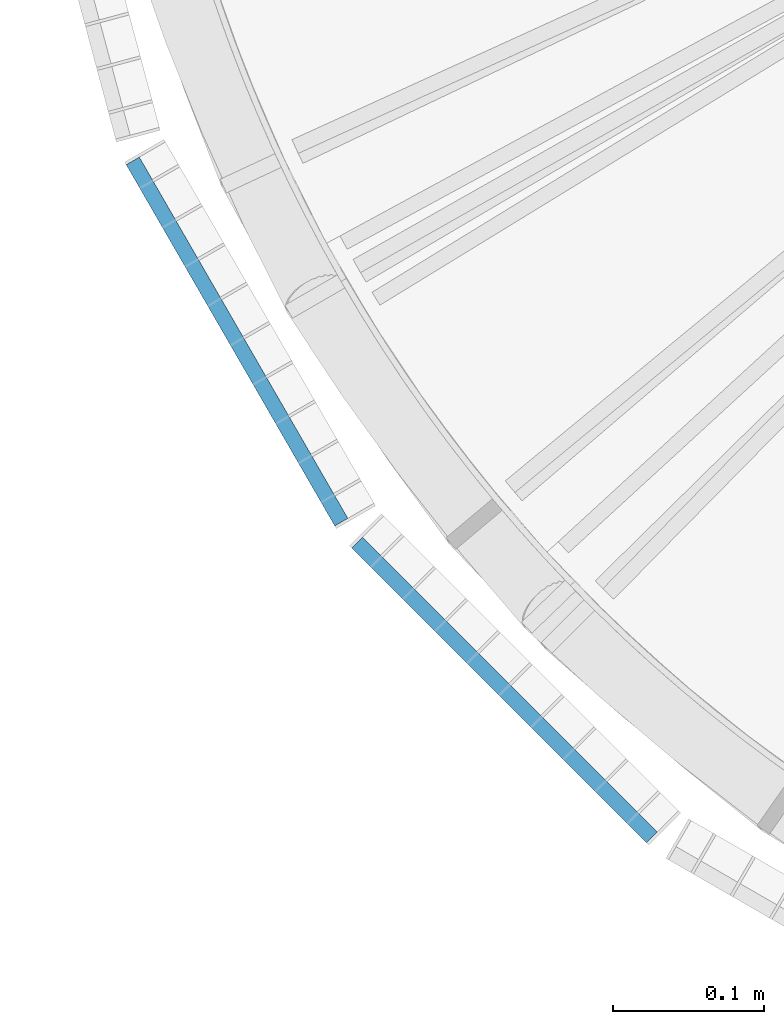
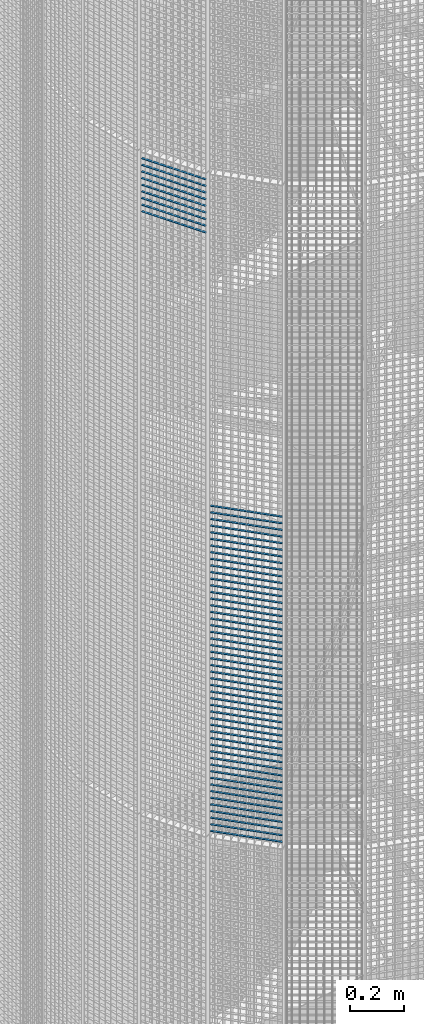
# One storey, part 115 of 1183: 59 beams, 2 elements without a shape of their own.
"""IFC2X3 building model written with IfcOpenShell, lengths in millimetres."""

from ifc_helpers import new_model, si_unit, frame, origin_with_axes, origin_2d_with_axis, place, context, subcontext, project, spatial, rectangle, extrude, material, type_object, element, aggregate, save


model = new_model("IFC2X3")

# Units and contexts
model_context = context("Model", 3, precision=1e-05, world=origin_with_axes())
body_context = subcontext(model_context, "Body", "Model", "MODEL_VIEW")
ifc_project = project(units=[si_unit("LENGTHUNIT", "METRE", prefix="MILLI"), si_unit("AREAUNIT", "SQUARE_METRE"), si_unit("VOLUMEUNIT", "CUBIC_METRE"), si_unit("MASSUNIT", "GRAM", prefix="KILO"), si_unit("TIMEUNIT", "SECOND"), si_unit("PLANEANGLEUNIT", "RADIAN"), si_unit("SOLIDANGLEUNIT", "STERADIAN"), si_unit("THERMODYNAMICTEMPERATUREUNIT", "DEGREE_CELSIUS"), si_unit("LUMINOUSINTENSITYUNIT", "LUMEN")], contexts=[model_context])

# Site, building, storey
site_placement = place(None, origin_with_axes())
site = spatial("IfcSite", under=ifc_project, at=site_placement, Name="Undefined", CompositionType="ELEMENT")
building_placement = place(site_placement, origin_with_axes())
building = spatial("IfcBuilding", under=site, at=building_placement, Name="Undefined", CompositionType="ELEMENT")
storey_placement = place(building_placement, origin_with_axes())
storey = spatial("IfcBuildingStorey", under=building, at=storey_placement, Name="Undefined", CompositionType="ELEMENT", Elevation=0.0)

# Assembly, beams
assembly_1_placement = place(storey_placement, origin_with_axes())
assembly_1 = element("IfcElementAssembly", 1, at=assembly_1_placement, inside=storey, Name="BORDURE", AssemblyPlace="NOTDEFINED", PredefinedType="NOTDEFINED")
ifc_material = material(Name="STEEL/S235JR")
beam_type = type_object("IfcBeamType", Name="PL2*10", PredefinedType="NOTDEFINED")
beam_1_placement = place(assembly_1_placement, frame((-884.927168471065, -689.771348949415, 10500.0), z_axis=(-0.70710678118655, -0.707106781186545, 0.0), x_axis=(0.707106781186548, -0.707106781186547, 0.0)))
beam_1 = element("IfcBeam", 2, at=beam_1_placement, type_object=beam_type, material=ifc_material, Name="ENTRETOISE", context=body_context, shape_type="SweptSolid", body=[
    extrude(rectangle(XDim=2.0, YDim=10.0, at=origin_2d_with_axis()), frame((275.999999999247, 9.09494701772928e-13, 1.53210777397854e-14), z_axis=(-1.0, 0.0, 0.0), x_axis=(0.0, -1.0, 0.0)), (0.0, 0.0, 1.0), 276.0),
])
beam_2_placement = place(assembly_1_placement, frame((-884.927168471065, -689.771348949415, 10470.0), z_axis=(-0.70710678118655, -0.707106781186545, 0.0), x_axis=(0.707106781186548, -0.707106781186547, 0.0)))
beam_2 = element("IfcBeam", 3, at=beam_2_placement, type_object=beam_type, material=ifc_material, Name="ENTRETOISE", context=body_context, shape_type="SweptSolid", body=[
    extrude(rectangle(XDim=2.0, YDim=10.0, at=origin_2d_with_axis()), frame((275.999999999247, 9.09494701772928e-13, 1.53210777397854e-14), z_axis=(-1.0, 0.0, 0.0), x_axis=(0.0, -1.0, 0.0)), (0.0, 0.0, 1.0), 276.0),
])
beam_3_placement = place(assembly_1_placement, frame((-884.927168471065, -689.771348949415, 10440.0), z_axis=(-0.70710678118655, -0.707106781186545, 0.0), x_axis=(0.707106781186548, -0.707106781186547, 0.0)))
beam_3 = element("IfcBeam", 4, at=beam_3_placement, type_object=beam_type, material=ifc_material, Name="ENTRETOISE", context=body_context, shape_type="SweptSolid", body=[
    extrude(rectangle(XDim=2.0, YDim=10.0, at=origin_2d_with_axis()), frame((275.999999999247, 9.09494701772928e-13, 1.53210777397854e-14), z_axis=(-1.0, 0.0, 0.0), x_axis=(0.0, -1.0, 0.0)), (0.0, 0.0, 1.0), 276.0),
])
beam_4_placement = place(assembly_1_placement, frame((-884.927168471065, -689.771348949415, 10410.0), z_axis=(-0.70710678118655, -0.707106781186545, 0.0), x_axis=(0.707106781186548, -0.707106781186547, 0.0)))
beam_4 = element("IfcBeam", 5, at=beam_4_placement, type_object=beam_type, material=ifc_material, Name="ENTRETOISE", context=body_context, shape_type="SweptSolid", body=[
    extrude(rectangle(XDim=2.0, YDim=10.0, at=origin_2d_with_axis()), frame((275.999999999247, 9.09494701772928e-13, 1.53210777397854e-14), z_axis=(-1.0, 0.0, 0.0), x_axis=(0.0, -1.0, 0.0)), (0.0, 0.0, 1.0), 276.0),
])
beam_5_placement = place(assembly_1_placement, frame((-884.927168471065, -689.771348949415, 10380.0), z_axis=(-0.70710678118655, -0.707106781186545, 0.0), x_axis=(0.707106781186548, -0.707106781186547, 0.0)))
beam_5 = element("IfcBeam", 6, at=beam_5_placement, type_object=beam_type, material=ifc_material, Name="ENTRETOISE", context=body_context, shape_type="SweptSolid", body=[
    extrude(rectangle(XDim=2.0, YDim=10.0, at=origin_2d_with_axis()), frame((275.999999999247, 9.09494701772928e-13, 1.53210777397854e-14), z_axis=(-1.0, 0.0, 0.0), x_axis=(0.0, -1.0, 0.0)), (0.0, 0.0, 1.0), 276.0),
])
beam_6_placement = place(assembly_1_placement, frame((-884.927168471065, -689.771348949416, 10350.0), z_axis=(-0.70710678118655, -0.707106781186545, 0.0), x_axis=(0.707106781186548, -0.707106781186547, 0.0)))
beam_6 = element("IfcBeam", 7, at=beam_6_placement, type_object=beam_type, material=ifc_material, Name="ENTRETOISE", context=body_context, shape_type="SweptSolid", body=[
    extrude(rectangle(XDim=2.0, YDim=10.0, at=origin_2d_with_axis()), frame((275.999999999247, 9.09494701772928e-13, 1.53210777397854e-14), z_axis=(-1.0, 0.0, 0.0), x_axis=(0.0, -1.0, 0.0)), (0.0, 0.0, 1.0), 276.0),
])
beam_7_placement = place(assembly_1_placement, frame((-884.927168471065, -689.771348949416, 10320.0), z_axis=(-0.70710678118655, -0.707106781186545, 0.0), x_axis=(0.707106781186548, -0.707106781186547, 0.0)))
beam_7 = element("IfcBeam", 8, at=beam_7_placement, type_object=beam_type, material=ifc_material, Name="ENTRETOISE", context=body_context, shape_type="SweptSolid", body=[
    extrude(rectangle(XDim=2.0, YDim=10.0, at=origin_2d_with_axis()), frame((275.999999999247, 9.09494701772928e-13, 1.53210777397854e-14), z_axis=(-1.0, 0.0, 0.0), x_axis=(0.0, -1.0, 0.0)), (0.0, 0.0, 1.0), 276.0),
])
beam_8_placement = place(assembly_1_placement, frame((-884.927168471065, -689.771348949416, 10290.0), z_axis=(-0.70710678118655, -0.707106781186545, 0.0), x_axis=(0.707106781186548, -0.707106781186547, 0.0)))
beam_8 = element("IfcBeam", 9, at=beam_8_placement, type_object=beam_type, material=ifc_material, Name="ENTRETOISE", context=body_context, shape_type="SweptSolid", body=[
    extrude(rectangle(XDim=2.0, YDim=10.0, at=origin_2d_with_axis()), frame((275.999999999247, 9.09494701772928e-13, 1.53210777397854e-14), z_axis=(-1.0, 0.0, 0.0), x_axis=(0.0, -1.0, 0.0)), (0.0, 0.0, 1.0), 276.0),
])
beam_9_placement = place(assembly_1_placement, frame((-884.927168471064, -689.771348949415, 10260.0), z_axis=(-0.70710678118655, -0.707106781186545, 0.0), x_axis=(0.707106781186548, -0.707106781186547, 0.0)))
beam_9 = element("IfcBeam", 10, at=beam_9_placement, type_object=beam_type, material=ifc_material, Name="ENTRETOISE", context=body_context, shape_type="SweptSolid", body=[
    extrude(rectangle(XDim=2.0, YDim=10.0, at=origin_2d_with_axis()), frame((275.999999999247, 9.09494701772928e-13, 1.53210777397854e-14), z_axis=(-1.0, 0.0, 0.0), x_axis=(0.0, -1.0, 0.0)), (0.0, 0.0, 1.0), 276.0),
])
beam_10_placement = place(assembly_1_placement, frame((-884.927168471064, -689.771348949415, 10230.0), z_axis=(-0.70710678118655, -0.707106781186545, 0.0), x_axis=(0.707106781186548, -0.707106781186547, 0.0)))
beam_10 = element("IfcBeam", 11, at=beam_10_placement, type_object=beam_type, material=ifc_material, Name="ENTRETOISE", context=body_context, shape_type="SweptSolid", body=[
    extrude(rectangle(XDim=2.0, YDim=10.0, at=origin_2d_with_axis()), frame((275.999999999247, 9.09494701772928e-13, 1.53210777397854e-14), z_axis=(-1.0, 0.0, 0.0), x_axis=(0.0, -1.0, 0.0)), (0.0, 0.0, 1.0), 276.0),
])
beam_11_placement = place(assembly_1_placement, frame((-884.927168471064, -689.771348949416, 10200.0), z_axis=(-0.70710678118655, -0.707106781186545, 0.0), x_axis=(0.707106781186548, -0.707106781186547, 0.0)))
beam_11 = element("IfcBeam", 12, at=beam_11_placement, type_object=beam_type, material=ifc_material, Name="ENTRETOISE", context=body_context, shape_type="SweptSolid", body=[
    extrude(rectangle(XDim=2.0, YDim=10.0, at=origin_2d_with_axis()), frame((275.999999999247, 9.09494701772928e-13, 1.53210777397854e-14), z_axis=(-1.0, 0.0, 0.0), x_axis=(0.0, -1.0, 0.0)), (0.0, 0.0, 1.0), 276.0),
])
beam_12_placement = place(assembly_1_placement, frame((-884.927168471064, -689.771348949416, 10170.0), z_axis=(-0.70710678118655, -0.707106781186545, 0.0), x_axis=(0.707106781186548, -0.707106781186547, 0.0)))
beam_12 = element("IfcBeam", 13, at=beam_12_placement, type_object=beam_type, material=ifc_material, Name="ENTRETOISE", context=body_context, shape_type="SweptSolid", body=[
    extrude(rectangle(XDim=2.0, YDim=10.0, at=origin_2d_with_axis()), frame((275.999999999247, 9.09494701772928e-13, 1.53210777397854e-14), z_axis=(-1.0, 0.0, 0.0), x_axis=(0.0, -1.0, 0.0)), (0.0, 0.0, 1.0), 276.0),
])
beam_13_placement = place(assembly_1_placement, frame((-884.927168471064, -689.771348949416, 10140.0), z_axis=(-0.70710678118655, -0.707106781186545, 0.0), x_axis=(0.707106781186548, -0.707106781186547, 0.0)))
beam_13 = element("IfcBeam", 14, at=beam_13_placement, type_object=beam_type, material=ifc_material, Name="ENTRETOISE", context=body_context, shape_type="SweptSolid", body=[
    extrude(rectangle(XDim=2.0, YDim=10.0, at=origin_2d_with_axis()), frame((275.999999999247, 9.09494701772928e-13, 1.53210777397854e-14), z_axis=(-1.0, 0.0, 0.0), x_axis=(0.0, -1.0, 0.0)), (0.0, 0.0, 1.0), 276.0),
])
beam_14_placement = place(assembly_1_placement, frame((-884.927168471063, -689.771348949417, 9720.0), z_axis=(-0.70710678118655, -0.707106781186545, 0.0), x_axis=(0.707106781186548, -0.707106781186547, 0.0)))
beam_14 = element("IfcBeam", 15, at=beam_14_placement, type_object=beam_type, material=ifc_material, Name="ENTRETOISE", context=body_context, shape_type="SweptSolid", body=[
    extrude(rectangle(XDim=2.0, YDim=10.0, at=origin_2d_with_axis()), frame((275.999999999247, 9.09494701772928e-13, 1.53210777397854e-14), z_axis=(-1.0, 0.0, 0.0), x_axis=(0.0, -1.0, 0.0)), (0.0, 0.0, 1.0), 276.0),
])
beam_15_placement = place(assembly_1_placement, frame((-884.927168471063, -689.771348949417, 9690.0), z_axis=(-0.70710678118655, -0.707106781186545, 0.0), x_axis=(0.707106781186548, -0.707106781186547, 0.0)))
beam_15 = element("IfcBeam", 16, at=beam_15_placement, type_object=beam_type, material=ifc_material, Name="ENTRETOISE", context=body_context, shape_type="SweptSolid", body=[
    extrude(rectangle(XDim=2.0, YDim=10.0, at=origin_2d_with_axis()), frame((275.999999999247, 9.09494701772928e-13, 1.53210777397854e-14), z_axis=(-1.0, 0.0, 0.0), x_axis=(0.0, -1.0, 0.0)), (0.0, 0.0, 1.0), 276.0),
])
beam_16_placement = place(assembly_1_placement, frame((-884.927168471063, -689.771348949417, 9750.0), z_axis=(-0.70710678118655, -0.707106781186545, 0.0), x_axis=(0.707106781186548, -0.707106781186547, 0.0)))
beam_16 = element("IfcBeam", 17, at=beam_16_placement, type_object=beam_type, material=ifc_material, Name="ENTRETOISE", context=body_context, shape_type="SweptSolid", body=[
    extrude(rectangle(XDim=2.0, YDim=10.0, at=origin_2d_with_axis()), frame((275.999999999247, 9.09494701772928e-13, 1.53210777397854e-14), z_axis=(-1.0, 0.0, 0.0), x_axis=(0.0, -1.0, 0.0)), (0.0, 0.0, 1.0), 276.0),
])
beam_17_placement = place(assembly_1_placement, frame((-884.927168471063, -689.771348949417, 9660.0), z_axis=(-0.70710678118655, -0.707106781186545, 0.0), x_axis=(0.707106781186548, -0.707106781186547, 0.0)))
beam_17 = element("IfcBeam", 18, at=beam_17_placement, type_object=beam_type, material=ifc_material, Name="ENTRETOISE", context=body_context, shape_type="SweptSolid", body=[
    extrude(rectangle(XDim=2.0, YDim=10.0, at=origin_2d_with_axis()), frame((275.999999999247, 9.09494701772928e-13, 1.53210777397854e-14), z_axis=(-1.0, 0.0, 0.0), x_axis=(0.0, -1.0, 0.0)), (0.0, 0.0, 1.0), 276.0),
])
beam_18_placement = place(assembly_1_placement, frame((-884.927168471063, -689.771348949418, 9630.0), z_axis=(-0.70710678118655, -0.707106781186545, 0.0), x_axis=(0.707106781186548, -0.707106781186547, 0.0)))
beam_18 = element("IfcBeam", 19, at=beam_18_placement, type_object=beam_type, material=ifc_material, Name="ENTRETOISE", context=body_context, shape_type="SweptSolid", body=[
    extrude(rectangle(XDim=2.0, YDim=10.0, at=origin_2d_with_axis()), frame((275.999999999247, 9.09494701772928e-13, 1.53210777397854e-14), z_axis=(-1.0, 0.0, 0.0), x_axis=(0.0, -1.0, 0.0)), (0.0, 0.0, 1.0), 276.0),
])
beam_19_placement = place(assembly_1_placement, frame((-884.927168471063, -689.771348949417, 9780.0), z_axis=(-0.70710678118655, -0.707106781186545, 0.0), x_axis=(0.707106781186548, -0.707106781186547, 0.0)))
beam_19 = element("IfcBeam", 20, at=beam_19_placement, type_object=beam_type, material=ifc_material, Name="ENTRETOISE", context=body_context, shape_type="SweptSolid", body=[
    extrude(rectangle(XDim=2.0, YDim=10.0, at=origin_2d_with_axis()), frame((275.999999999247, 9.09494701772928e-13, 1.53210777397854e-14), z_axis=(-1.0, 0.0, 0.0), x_axis=(0.0, -1.0, 0.0)), (0.0, 0.0, 1.0), 276.0),
])
beam_20_placement = place(assembly_1_placement, frame((-884.927168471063, -689.771348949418, 9600.0), z_axis=(-0.70710678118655, -0.707106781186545, 0.0), x_axis=(0.707106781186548, -0.707106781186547, 0.0)))
beam_20 = element("IfcBeam", 21, at=beam_20_placement, type_object=beam_type, material=ifc_material, Name="ENTRETOISE", context=body_context, shape_type="SweptSolid", body=[
    extrude(rectangle(XDim=2.0, YDim=10.0, at=origin_2d_with_axis()), frame((275.999999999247, 9.09494701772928e-13, 1.53210777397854e-14), z_axis=(-1.0, 0.0, 0.0), x_axis=(0.0, -1.0, 0.0)), (0.0, 0.0, 1.0), 276.0),
])
beam_21_placement = place(assembly_1_placement, frame((-884.927168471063, -689.771348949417, 9810.0), z_axis=(-0.70710678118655, -0.707106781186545, 0.0), x_axis=(0.707106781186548, -0.707106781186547, 0.0)))
beam_21 = element("IfcBeam", 22, at=beam_21_placement, type_object=beam_type, material=ifc_material, Name="ENTRETOISE", context=body_context, shape_type="SweptSolid", body=[
    extrude(rectangle(XDim=2.0, YDim=10.0, at=origin_2d_with_axis()), frame((275.999999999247, 9.09494701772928e-13, 1.53210777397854e-14), z_axis=(-1.0, 0.0, 0.0), x_axis=(0.0, -1.0, 0.0)), (0.0, 0.0, 1.0), 276.0),
])
beam_22_placement = place(assembly_1_placement, frame((-884.927168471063, -689.771348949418, 9570.0), z_axis=(-0.70710678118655, -0.707106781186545, 0.0), x_axis=(0.707106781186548, -0.707106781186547, 0.0)))
beam_22 = element("IfcBeam", 23, at=beam_22_placement, type_object=beam_type, material=ifc_material, Name="ENTRETOISE", context=body_context, shape_type="SweptSolid", body=[
    extrude(rectangle(XDim=2.0, YDim=10.0, at=origin_2d_with_axis()), frame((275.999999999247, 9.09494701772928e-13, 1.53210777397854e-14), z_axis=(-1.0, 0.0, 0.0), x_axis=(0.0, -1.0, 0.0)), (0.0, 0.0, 1.0), 276.0),
])
beam_23_placement = place(assembly_1_placement, frame((-884.927168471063, -689.771348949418, 9540.0), z_axis=(-0.70710678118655, -0.707106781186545, 0.0), x_axis=(0.707106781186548, -0.707106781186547, 0.0)))
beam_23 = element("IfcBeam", 24, at=beam_23_placement, type_object=beam_type, material=ifc_material, Name="ENTRETOISE", context=body_context, shape_type="SweptSolid", body=[
    extrude(rectangle(XDim=2.0, YDim=10.0, at=origin_2d_with_axis()), frame((275.999999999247, 9.09494701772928e-13, 1.53210777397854e-14), z_axis=(-1.0, 0.0, 0.0), x_axis=(0.0, -1.0, 0.0)), (0.0, 0.0, 1.0), 276.0),
])
beam_24_placement = place(assembly_1_placement, frame((-884.927168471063, -689.771348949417, 9840.0), z_axis=(-0.70710678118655, -0.707106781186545, 0.0), x_axis=(0.707106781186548, -0.707106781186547, 0.0)))
beam_24 = element("IfcBeam", 25, at=beam_24_placement, type_object=beam_type, material=ifc_material, Name="ENTRETOISE", context=body_context, shape_type="SweptSolid", body=[
    extrude(rectangle(XDim=2.0, YDim=10.0, at=origin_2d_with_axis()), frame((275.999999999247, 9.09494701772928e-13, 1.53210777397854e-14), z_axis=(-1.0, 0.0, 0.0), x_axis=(0.0, -1.0, 0.0)), (0.0, 0.0, 1.0), 276.0),
])
beam_25_placement = place(assembly_1_placement, frame((-884.927168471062, -689.771348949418, 9510.0), z_axis=(-0.70710678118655, -0.707106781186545, 0.0), x_axis=(0.707106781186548, -0.707106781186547, 0.0)))
beam_25 = element("IfcBeam", 26, at=beam_25_placement, type_object=beam_type, material=ifc_material, Name="ENTRETOISE", context=body_context, shape_type="SweptSolid", body=[
    extrude(rectangle(XDim=2.0, YDim=10.0, at=origin_2d_with_axis()), frame((275.999999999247, 9.09494701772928e-13, 1.53210777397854e-14), z_axis=(-1.0, 0.0, 0.0), x_axis=(0.0, -1.0, 0.0)), (0.0, 0.0, 1.0), 276.0),
])
beam_26_placement = place(assembly_1_placement, frame((-884.927168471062, -689.771348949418, 9480.0), z_axis=(-0.70710678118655, -0.707106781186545, 0.0), x_axis=(0.707106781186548, -0.707106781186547, 0.0)))
beam_26 = element("IfcBeam", 27, at=beam_26_placement, type_object=beam_type, material=ifc_material, Name="ENTRETOISE", context=body_context, shape_type="SweptSolid", body=[
    extrude(rectangle(XDim=2.0, YDim=10.0, at=origin_2d_with_axis()), frame((275.999999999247, 9.09494701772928e-13, 1.53210777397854e-14), z_axis=(-1.0, 0.0, 0.0), x_axis=(0.0, -1.0, 0.0)), (0.0, 0.0, 1.0), 276.0),
])
beam_27_placement = place(assembly_1_placement, frame((-884.927168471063, -689.771348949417, 9870.0), z_axis=(-0.70710678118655, -0.707106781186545, 0.0), x_axis=(0.707106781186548, -0.707106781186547, 0.0)))
beam_27 = element("IfcBeam", 28, at=beam_27_placement, type_object=beam_type, material=ifc_material, Name="ENTRETOISE", context=body_context, shape_type="SweptSolid", body=[
    extrude(rectangle(XDim=2.0, YDim=10.0, at=origin_2d_with_axis()), frame((275.999999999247, 9.09494701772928e-13, 1.53210777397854e-14), z_axis=(-1.0, 0.0, 0.0), x_axis=(0.0, -1.0, 0.0)), (0.0, 0.0, 1.0), 276.0),
])
beam_28_placement = place(assembly_1_placement, frame((-884.927168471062, -689.771348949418, 9450.0), z_axis=(-0.70710678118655, -0.707106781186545, 0.0), x_axis=(0.707106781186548, -0.707106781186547, 0.0)))
beam_28 = element("IfcBeam", 29, at=beam_28_placement, type_object=beam_type, material=ifc_material, Name="ENTRETOISE", context=body_context, shape_type="SweptSolid", body=[
    extrude(rectangle(XDim=2.0, YDim=10.0, at=origin_2d_with_axis()), frame((275.999999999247, 9.09494701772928e-13, 1.53210777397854e-14), z_axis=(-1.0, 0.0, 0.0), x_axis=(0.0, -1.0, 0.0)), (0.0, 0.0, 1.0), 276.0),
])
beam_29_placement = place(assembly_1_placement, frame((-884.927168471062, -689.771348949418, 9420.0), z_axis=(-0.70710678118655, -0.707106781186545, 0.0), x_axis=(0.707106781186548, -0.707106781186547, 0.0)))
beam_29 = element("IfcBeam", 30, at=beam_29_placement, type_object=beam_type, material=ifc_material, Name="ENTRETOISE", context=body_context, shape_type="SweptSolid", body=[
    extrude(rectangle(XDim=2.0, YDim=10.0, at=origin_2d_with_axis()), frame((275.999999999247, 9.09494701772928e-13, 1.53210777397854e-14), z_axis=(-1.0, 0.0, 0.0), x_axis=(0.0, -1.0, 0.0)), (0.0, 0.0, 1.0), 276.0),
])
beam_30_placement = place(assembly_1_placement, frame((-884.927168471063, -689.771348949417, 9900.0), z_axis=(-0.70710678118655, -0.707106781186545, 0.0), x_axis=(0.707106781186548, -0.707106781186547, 0.0)))
beam_30 = element("IfcBeam", 31, at=beam_30_placement, type_object=beam_type, material=ifc_material, Name="ENTRETOISE", context=body_context, shape_type="SweptSolid", body=[
    extrude(rectangle(XDim=2.0, YDim=10.0, at=origin_2d_with_axis()), frame((275.999999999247, 9.09494701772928e-13, 1.53210777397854e-14), z_axis=(-1.0, 0.0, 0.0), x_axis=(0.0, -1.0, 0.0)), (0.0, 0.0, 1.0), 276.0),
])
beam_31_placement = place(assembly_1_placement, frame((-884.927168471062, -689.771348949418, 9390.0), z_axis=(-0.70710678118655, -0.707106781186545, 0.0), x_axis=(0.707106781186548, -0.707106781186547, 0.0)))
beam_31 = element("IfcBeam", 32, at=beam_31_placement, type_object=beam_type, material=ifc_material, Name="ENTRETOISE", context=body_context, shape_type="SweptSolid", body=[
    extrude(rectangle(XDim=2.0, YDim=10.0, at=origin_2d_with_axis()), frame((275.999999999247, 9.09494701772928e-13, 1.53210777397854e-14), z_axis=(-1.0, 0.0, 0.0), x_axis=(0.0, -1.0, 0.0)), (0.0, 0.0, 1.0), 276.0),
])
beam_32_placement = place(assembly_1_placement, frame((-884.927168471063, -689.771348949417, 9930.0), z_axis=(-0.70710678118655, -0.707106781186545, 0.0), x_axis=(0.707106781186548, -0.707106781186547, 0.0)))
beam_32 = element("IfcBeam", 33, at=beam_32_placement, type_object=beam_type, material=ifc_material, Name="ENTRETOISE", context=body_context, shape_type="SweptSolid", body=[
    extrude(rectangle(XDim=2.0, YDim=10.0, at=origin_2d_with_axis()), frame((275.999999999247, 9.09494701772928e-13, 1.53210777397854e-14), z_axis=(-1.0, 0.0, 0.0), x_axis=(0.0, -1.0, 0.0)), (0.0, 0.0, 1.0), 276.0),
])
beam_33_placement = place(assembly_1_placement, frame((-884.927168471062, -689.771348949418, 9360.0), z_axis=(-0.70710678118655, -0.707106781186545, 0.0), x_axis=(0.707106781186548, -0.707106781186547, 0.0)))
beam_33 = element("IfcBeam", 34, at=beam_33_placement, type_object=beam_type, material=ifc_material, Name="ENTRETOISE", context=body_context, shape_type="SweptSolid", body=[
    extrude(rectangle(XDim=2.0, YDim=10.0, at=origin_2d_with_axis()), frame((275.999999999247, 9.09494701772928e-13, 1.53210777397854e-14), z_axis=(-1.0, 0.0, 0.0), x_axis=(0.0, -1.0, 0.0)), (0.0, 0.0, 1.0), 276.0),
])
beam_34_placement = place(assembly_1_placement, frame((-884.927168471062, -689.771348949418, 9330.0), z_axis=(-0.70710678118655, -0.707106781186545, 0.0), x_axis=(0.707106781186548, -0.707106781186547, 0.0)))
beam_34 = element("IfcBeam", 35, at=beam_34_placement, type_object=beam_type, material=ifc_material, Name="ENTRETOISE", context=body_context, shape_type="SweptSolid", body=[
    extrude(rectangle(XDim=2.0, YDim=10.0, at=origin_2d_with_axis()), frame((275.999999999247, 9.09494701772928e-13, 1.53210777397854e-14), z_axis=(-1.0, 0.0, 0.0), x_axis=(0.0, -1.0, 0.0)), (0.0, 0.0, 1.0), 276.0),
])
beam_35_placement = place(assembly_1_placement, frame((-884.927168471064, -689.771348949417, 9960.0), z_axis=(-0.70710678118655, -0.707106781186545, 0.0), x_axis=(0.707106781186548, -0.707106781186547, 0.0)))
beam_35 = element("IfcBeam", 36, at=beam_35_placement, type_object=beam_type, material=ifc_material, Name="ENTRETOISE", context=body_context, shape_type="SweptSolid", body=[
    extrude(rectangle(XDim=2.0, YDim=10.0, at=origin_2d_with_axis()), frame((275.999999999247, 9.09494701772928e-13, 1.53210777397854e-14), z_axis=(-1.0, 0.0, 0.0), x_axis=(0.0, -1.0, 0.0)), (0.0, 0.0, 1.0), 276.0),
])
beam_36_placement = place(assembly_1_placement, frame((-884.927168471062, -689.771348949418, 9300.0), z_axis=(-0.70710678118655, -0.707106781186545, 0.0), x_axis=(0.707106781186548, -0.707106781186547, 0.0)))
beam_36 = element("IfcBeam", 37, at=beam_36_placement, type_object=beam_type, material=ifc_material, Name="ENTRETOISE", context=body_context, shape_type="SweptSolid", body=[
    extrude(rectangle(XDim=2.0, YDim=10.0, at=origin_2d_with_axis()), frame((275.999999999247, 9.09494701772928e-13, 1.53210777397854e-14), z_axis=(-1.0, 0.0, 0.0), x_axis=(0.0, -1.0, 0.0)), (0.0, 0.0, 1.0), 276.0),
])
beam_37_placement = place(assembly_1_placement, frame((-884.927168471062, -689.771348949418, 9270.0), z_axis=(-0.70710678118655, -0.707106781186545, 0.0), x_axis=(0.707106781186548, -0.707106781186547, 0.0)))
beam_37 = element("IfcBeam", 38, at=beam_37_placement, type_object=beam_type, material=ifc_material, Name="ENTRETOISE", context=body_context, shape_type="SweptSolid", body=[
    extrude(rectangle(XDim=2.0, YDim=10.0, at=origin_2d_with_axis()), frame((275.999999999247, 9.09494701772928e-13, 1.53210777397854e-14), z_axis=(-1.0, 0.0, 0.0), x_axis=(0.0, -1.0, 0.0)), (0.0, 0.0, 1.0), 276.0),
])
beam_38_placement = place(assembly_1_placement, frame((-884.927168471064, -689.771348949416, 9990.0), z_axis=(-0.70710678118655, -0.707106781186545, 0.0), x_axis=(0.707106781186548, -0.707106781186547, 0.0)))
beam_38 = element("IfcBeam", 39, at=beam_38_placement, type_object=beam_type, material=ifc_material, Name="ENTRETOISE", context=body_context, shape_type="SweptSolid", body=[
    extrude(rectangle(XDim=2.0, YDim=10.0, at=origin_2d_with_axis()), frame((275.999999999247, 9.09494701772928e-13, 1.53210777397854e-14), z_axis=(-1.0, 0.0, 0.0), x_axis=(0.0, -1.0, 0.0)), (0.0, 0.0, 1.0), 276.0),
])
beam_39_placement = place(assembly_1_placement, frame((-884.927168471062, -689.771348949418, 9240.0), z_axis=(-0.70710678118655, -0.707106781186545, 0.0), x_axis=(0.707106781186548, -0.707106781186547, 0.0)))
beam_39 = element("IfcBeam", 40, at=beam_39_placement, type_object=beam_type, material=ifc_material, Name="ENTRETOISE", context=body_context, shape_type="SweptSolid", body=[
    extrude(rectangle(XDim=2.0, YDim=10.0, at=origin_2d_with_axis()), frame((275.999999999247, 9.09494701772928e-13, 1.53210777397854e-14), z_axis=(-1.0, 0.0, 0.0), x_axis=(0.0, -1.0, 0.0)), (0.0, 0.0, 1.0), 276.0),
])
beam_40_placement = place(assembly_1_placement, frame((-884.927168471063, -689.771348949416, 10020.0), z_axis=(-0.70710678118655, -0.707106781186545, 0.0), x_axis=(0.707106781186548, -0.707106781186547, 0.0)))
beam_40 = element("IfcBeam", 41, at=beam_40_placement, type_object=beam_type, material=ifc_material, Name="ENTRETOISE", context=body_context, shape_type="SweptSolid", body=[
    extrude(rectangle(XDim=2.0, YDim=10.0, at=origin_2d_with_axis()), frame((275.999999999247, 9.09494701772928e-13, 1.53210777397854e-14), z_axis=(-1.0, 0.0, 0.0), x_axis=(0.0, -1.0, 0.0)), (0.0, 0.0, 1.0), 276.0),
])
beam_41_placement = place(assembly_1_placement, frame((-884.927168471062, -689.771348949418, 9210.0), z_axis=(-0.70710678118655, -0.707106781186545, 0.0), x_axis=(0.707106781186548, -0.707106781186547, 0.0)))
beam_41 = element("IfcBeam", 42, at=beam_41_placement, type_object=beam_type, material=ifc_material, Name="ENTRETOISE", context=body_context, shape_type="SweptSolid", body=[
    extrude(rectangle(XDim=2.0, YDim=10.0, at=origin_2d_with_axis()), frame((275.999999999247, 9.09494701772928e-13, 1.53210777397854e-14), z_axis=(-1.0, 0.0, 0.0), x_axis=(0.0, -1.0, 0.0)), (0.0, 0.0, 1.0), 276.0),
])
beam_42_placement = place(assembly_1_placement, frame((-884.927168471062, -689.771348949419, 9180.0), z_axis=(-0.70710678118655, -0.707106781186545, 0.0), x_axis=(0.707106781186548, -0.707106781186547, 0.0)))
beam_42 = element("IfcBeam", 43, at=beam_42_placement, type_object=beam_type, material=ifc_material, Name="ENTRETOISE", context=body_context, shape_type="SweptSolid", body=[
    extrude(rectangle(XDim=2.0, YDim=10.0, at=origin_2d_with_axis()), frame((275.999999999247, 9.09494701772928e-13, 1.53210777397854e-14), z_axis=(-1.0, 0.0, 0.0), x_axis=(0.0, -1.0, 0.0)), (0.0, 0.0, 1.0), 276.0),
])
beam_43_placement = place(assembly_1_placement, frame((-884.927168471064, -689.771348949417, 10050.0), z_axis=(-0.70710678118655, -0.707106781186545, 0.0), x_axis=(0.707106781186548, -0.707106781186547, 0.0)))
beam_43 = element("IfcBeam", 44, at=beam_43_placement, type_object=beam_type, material=ifc_material, Name="ENTRETOISE", context=body_context, shape_type="SweptSolid", body=[
    extrude(rectangle(XDim=2.0, YDim=10.0, at=origin_2d_with_axis()), frame((275.999999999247, 9.09494701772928e-13, 1.53210777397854e-14), z_axis=(-1.0, 0.0, 0.0), x_axis=(0.0, -1.0, 0.0)), (0.0, 0.0, 1.0), 276.0),
])
beam_44_placement = place(assembly_1_placement, frame((-884.927168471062, -689.771348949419, 9150.0), z_axis=(-0.70710678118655, -0.707106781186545, 0.0), x_axis=(0.707106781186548, -0.707106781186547, 0.0)))
beam_44 = element("IfcBeam", 45, at=beam_44_placement, type_object=beam_type, material=ifc_material, Name="ENTRETOISE", context=body_context, shape_type="SweptSolid", body=[
    extrude(rectangle(XDim=2.0, YDim=10.0, at=origin_2d_with_axis()), frame((275.999999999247, 9.09494701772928e-13, 1.53210777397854e-14), z_axis=(-1.0, 0.0, 0.0), x_axis=(0.0, -1.0, 0.0)), (0.0, 0.0, 1.0), 276.0),
])
beam_45_placement = place(assembly_1_placement, frame((-884.927168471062, -689.771348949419, 9120.0), z_axis=(-0.70710678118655, -0.707106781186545, 0.0), x_axis=(0.707106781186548, -0.707106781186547, 0.0)))
beam_45 = element("IfcBeam", 46, at=beam_45_placement, type_object=beam_type, material=ifc_material, Name="ENTRETOISE", context=body_context, shape_type="SweptSolid", body=[
    extrude(rectangle(XDim=2.0, YDim=10.0, at=origin_2d_with_axis()), frame((275.999999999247, 9.09494701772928e-13, 1.53210777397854e-14), z_axis=(-1.0, 0.0, 0.0), x_axis=(0.0, -1.0, 0.0)), (0.0, 0.0, 1.0), 276.0),
])
beam_46_placement = place(assembly_1_placement, frame((-884.927168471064, -689.771348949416, 10080.0), z_axis=(-0.70710678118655, -0.707106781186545, 0.0), x_axis=(0.707106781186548, -0.707106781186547, 0.0)))
beam_46 = element("IfcBeam", 47, at=beam_46_placement, type_object=beam_type, material=ifc_material, Name="ENTRETOISE", context=body_context, shape_type="SweptSolid", body=[
    extrude(rectangle(XDim=2.0, YDim=10.0, at=origin_2d_with_axis()), frame((275.999999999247, 9.09494701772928e-13, 1.53210777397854e-14), z_axis=(-1.0, 0.0, 0.0), x_axis=(0.0, -1.0, 0.0)), (0.0, 0.0, 1.0), 276.0),
])
beam_47_placement = place(assembly_1_placement, frame((-884.927168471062, -689.771348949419, 9090.0), z_axis=(-0.70710678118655, -0.707106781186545, 0.0), x_axis=(0.707106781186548, -0.707106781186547, 0.0)))
beam_47 = element("IfcBeam", 48, at=beam_47_placement, type_object=beam_type, material=ifc_material, Name="ENTRETOISE", context=body_context, shape_type="SweptSolid", body=[
    extrude(rectangle(XDim=2.0, YDim=10.0, at=origin_2d_with_axis()), frame((275.999999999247, 9.09494701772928e-13, 1.53210777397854e-14), z_axis=(-1.0, 0.0, 0.0), x_axis=(0.0, -1.0, 0.0)), (0.0, 0.0, 1.0), 276.0),
])
beam_48_placement = place(assembly_1_placement, frame((-884.927168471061, -689.771348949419, 9060.0), z_axis=(-0.70710678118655, -0.707106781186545, 0.0), x_axis=(0.707106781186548, -0.707106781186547, 0.0)))
beam_48 = element("IfcBeam", 49, at=beam_48_placement, type_object=beam_type, material=ifc_material, Name="ENTRETOISE", context=body_context, shape_type="SweptSolid", body=[
    extrude(rectangle(XDim=2.0, YDim=10.0, at=origin_2d_with_axis()), frame((275.999999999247, 9.09494701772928e-13, 1.53210777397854e-14), z_axis=(-1.0, 0.0, 0.0), x_axis=(0.0, -1.0, 0.0)), (0.0, 0.0, 1.0), 276.0),
])
beam_49_placement = place(assembly_1_placement, frame((-884.927168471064, -689.771348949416, 10110.0), z_axis=(-0.70710678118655, -0.707106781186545, 0.0), x_axis=(0.707106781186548, -0.707106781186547, 0.0)))
beam_49 = element("IfcBeam", 50, at=beam_49_placement, type_object=beam_type, material=ifc_material, Name="ENTRETOISE", context=body_context, shape_type="SweptSolid", body=[
    extrude(rectangle(XDim=2.0, YDim=10.0, at=origin_2d_with_axis()), frame((275.999999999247, 9.09494701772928e-13, 1.53210777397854e-14), z_axis=(-1.0, 0.0, 0.0), x_axis=(0.0, -1.0, 0.0)), (0.0, 0.0, 1.0), 276.0),
])
beam_50_placement = place(assembly_1_placement, frame((-884.92716847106, -689.771348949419, 9030.0), z_axis=(-0.70710678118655, -0.707106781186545, 0.0), x_axis=(0.707106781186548, -0.707106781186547, 0.0)))
beam_50 = element("IfcBeam", 51, at=beam_50_placement, type_object=beam_type, material=ifc_material, Name="ENTRETOISE", context=body_context, shape_type="SweptSolid", body=[
    extrude(rectangle(XDim=2.0, YDim=10.0, at=origin_2d_with_axis()), frame((275.999999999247, 9.09494701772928e-13, 1.53210777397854e-14), z_axis=(-1.0, 0.0, 0.0), x_axis=(0.0, -1.0, 0.0)), (0.0, 0.0, 1.0), 276.0),
])
aggregate(assembly_1, [beam_1, beam_2, beam_3, beam_4, beam_5, beam_6, beam_7, beam_8, beam_9, beam_10, beam_11, beam_12, beam_13, beam_14, beam_15, beam_16, beam_17, beam_18, beam_19, beam_20, beam_21, beam_22, beam_23, beam_24, beam_25, beam_26, beam_27, beam_28, beam_29, beam_30, beam_31, beam_32, beam_33, beam_34, beam_35, beam_36, beam_37, beam_38, beam_39, beam_40, beam_41, beam_42, beam_43, beam_44, beam_45, beam_46, beam_47, beam_48, beam_49, beam_50])

assembly_2_placement = place(storey_placement, origin_with_axes())
assembly_2 = element("IfcElementAssembly", 52, at=assembly_2_placement, inside=storey, Name="BORDURE", AssemblyPlace="NOTDEFINED", PredefinedType="NOTDEFINED")
beam_51_placement = place(assembly_2_placement, frame((-1033.29996828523, -437.231955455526, 11970.0), z_axis=(-0.866025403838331, -0.499999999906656, 0.0), x_axis=(0.499999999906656, -0.866025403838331, 0.0)))
beam_51 = element("IfcBeam", 53, at=beam_51_placement, type_object=beam_type, material=ifc_material, Name="ENTRETOISE", context=body_context, shape_type="SweptSolid", body=[
    extrude(rectangle(XDim=2.0, YDim=10.0, at=origin_2d_with_axis()), frame((275.999999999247, 9.09494701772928e-13, 1.53210777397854e-14), z_axis=(-1.0, 0.0, 0.0), x_axis=(0.0, -1.0, 0.0)), (0.0, 0.0, 1.0), 276.0),
])
beam_52_placement = place(assembly_2_placement, frame((-1033.29996828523, -437.231955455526, 11940.0), z_axis=(-0.866025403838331, -0.499999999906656, 0.0), x_axis=(0.499999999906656, -0.866025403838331, 0.0)))
beam_52 = element("IfcBeam", 54, at=beam_52_placement, type_object=beam_type, material=ifc_material, Name="ENTRETOISE", context=body_context, shape_type="SweptSolid", body=[
    extrude(rectangle(XDim=2.0, YDim=10.0, at=origin_2d_with_axis()), frame((275.999999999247, 9.09494701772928e-13, 1.53210777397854e-14), z_axis=(-1.0, 0.0, 0.0), x_axis=(0.0, -1.0, 0.0)), (0.0, 0.0, 1.0), 276.0),
])
beam_53_placement = place(assembly_2_placement, frame((-1033.29996828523, -437.231955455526, 11910.0), z_axis=(-0.866025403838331, -0.499999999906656, 0.0), x_axis=(0.499999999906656, -0.866025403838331, 0.0)))
beam_53 = element("IfcBeam", 55, at=beam_53_placement, type_object=beam_type, material=ifc_material, Name="ENTRETOISE", context=body_context, shape_type="SweptSolid", body=[
    extrude(rectangle(XDim=2.0, YDim=10.0, at=origin_2d_with_axis()), frame((275.999999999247, 9.09494701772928e-13, 1.53210777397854e-14), z_axis=(-1.0, 0.0, 0.0), x_axis=(0.0, -1.0, 0.0)), (0.0, 0.0, 1.0), 276.0),
])
beam_54_placement = place(assembly_2_placement, frame((-1033.29996828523, -437.231955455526, 11880.0), z_axis=(-0.866025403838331, -0.499999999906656, 0.0), x_axis=(0.499999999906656, -0.866025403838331, 0.0)))
beam_54 = element("IfcBeam", 56, at=beam_54_placement, type_object=beam_type, material=ifc_material, Name="ENTRETOISE", context=body_context, shape_type="SweptSolid", body=[
    extrude(rectangle(XDim=2.0, YDim=10.0, at=origin_2d_with_axis()), frame((275.999999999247, 9.09494701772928e-13, 1.53210777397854e-14), z_axis=(-1.0, 0.0, 0.0), x_axis=(0.0, -1.0, 0.0)), (0.0, 0.0, 1.0), 276.0),
])
beam_55_placement = place(assembly_2_placement, frame((-1033.29996828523, -437.231955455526, 11850.0), z_axis=(-0.866025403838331, -0.499999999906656, 0.0), x_axis=(0.499999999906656, -0.866025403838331, 0.0)))
beam_55 = element("IfcBeam", 57, at=beam_55_placement, type_object=beam_type, material=ifc_material, Name="ENTRETOISE", context=body_context, shape_type="SweptSolid", body=[
    extrude(rectangle(XDim=2.0, YDim=10.0, at=origin_2d_with_axis()), frame((275.999999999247, 9.09494701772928e-13, 1.53210777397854e-14), z_axis=(-1.0, 0.0, 0.0), x_axis=(0.0, -1.0, 0.0)), (0.0, 0.0, 1.0), 276.0),
])
beam_56_placement = place(assembly_2_placement, frame((-1033.29996828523, -437.231955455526, 11820.0), z_axis=(-0.866025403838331, -0.499999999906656, 0.0), x_axis=(0.499999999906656, -0.866025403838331, 0.0)))
beam_56 = element("IfcBeam", 58, at=beam_56_placement, type_object=beam_type, material=ifc_material, Name="ENTRETOISE", context=body_context, shape_type="SweptSolid", body=[
    extrude(rectangle(XDim=2.0, YDim=10.0, at=origin_2d_with_axis()), frame((275.999999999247, 9.09494701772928e-13, 1.53210777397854e-14), z_axis=(-1.0, 0.0, 0.0), x_axis=(0.0, -1.0, 0.0)), (0.0, 0.0, 1.0), 276.0),
])
beam_57_placement = place(assembly_2_placement, frame((-1033.29996828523, -437.231955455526, 11790.0), z_axis=(-0.866025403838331, -0.499999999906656, 0.0), x_axis=(0.499999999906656, -0.866025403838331, 0.0)))
beam_57 = element("IfcBeam", 59, at=beam_57_placement, type_object=beam_type, material=ifc_material, Name="ENTRETOISE", context=body_context, shape_type="SweptSolid", body=[
    extrude(rectangle(XDim=2.0, YDim=10.0, at=origin_2d_with_axis()), frame((275.999999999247, 9.09494701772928e-13, 1.53210777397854e-14), z_axis=(-1.0, 0.0, 0.0), x_axis=(0.0, -1.0, 0.0)), (0.0, 0.0, 1.0), 276.0),
])
beam_58_placement = place(assembly_2_placement, frame((-1033.29996828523, -437.231955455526, 11760.0), z_axis=(-0.866025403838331, -0.499999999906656, 0.0), x_axis=(0.499999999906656, -0.866025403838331, 0.0)))
beam_58 = element("IfcBeam", 60, at=beam_58_placement, type_object=beam_type, material=ifc_material, Name="ENTRETOISE", context=body_context, shape_type="SweptSolid", body=[
    extrude(rectangle(XDim=2.0, YDim=10.0, at=origin_2d_with_axis()), frame((275.999999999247, 9.09494701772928e-13, 1.53210777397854e-14), z_axis=(-1.0, 0.0, 0.0), x_axis=(0.0, -1.0, 0.0)), (0.0, 0.0, 1.0), 276.0),
])
beam_59_placement = place(assembly_2_placement, frame((-1033.29996828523, -437.231955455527, 11730.0), z_axis=(-0.866025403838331, -0.499999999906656, 0.0), x_axis=(0.499999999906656, -0.866025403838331, 0.0)))
beam_59 = element("IfcBeam", 61, at=beam_59_placement, type_object=beam_type, material=ifc_material, Name="ENTRETOISE", context=body_context, shape_type="SweptSolid", body=[
    extrude(rectangle(XDim=2.0, YDim=10.0, at=origin_2d_with_axis()), frame((275.999999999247, 9.09494701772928e-13, 1.53210777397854e-14), z_axis=(-1.0, 0.0, 0.0), x_axis=(0.0, -1.0, 0.0)), (0.0, 0.0, 1.0), 276.0),
])
aggregate(assembly_2, [beam_51, beam_52, beam_53, beam_54, beam_55, beam_56, beam_57, beam_58, beam_59])

save(model, "model.ifc")
